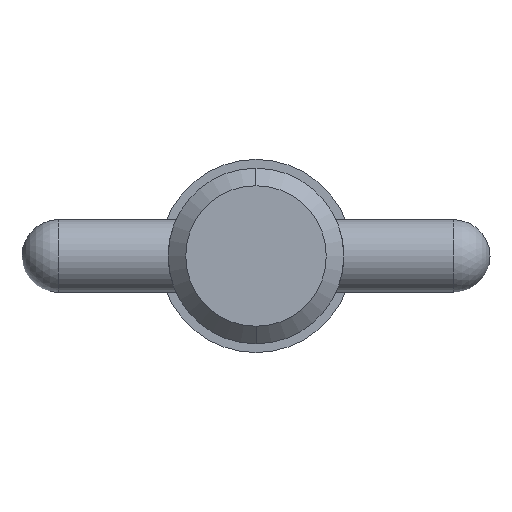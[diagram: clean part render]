
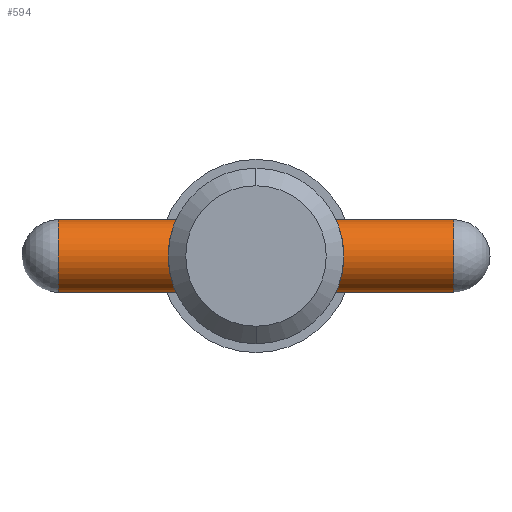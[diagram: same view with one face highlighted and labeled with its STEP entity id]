
A CAD part, left-side view. The second image highlights one B-rep face of the part: STEP entity #594.
In plain terms, the highlighted cylindrical face has radius 1.98 mm (diameter 3.96 mm), a partial arc.
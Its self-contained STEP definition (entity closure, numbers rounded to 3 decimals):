
#1 = CARTESIAN_POINT ( 'NONE',  ( 0., 10.72, 1.98 ) ) ;
#44 = VERTEX_POINT ( 'NONE', #572 ) ;
#81 = CARTESIAN_POINT ( 'NONE',  ( 0., 10.72, -1.98 ) ) ;
#110 = CARTESIAN_POINT ( 'NONE',  ( 0., 12.7, 1.98 ) ) ;
#135 = VERTEX_POINT ( 'NONE', #395 ) ;
#139 = ORIENTED_EDGE ( 'NONE', *, *, #828, .T. ) ;
#143 = VERTEX_POINT ( 'NONE', #1 ) ;
#177 = DIRECTION ( 'NONE',  ( 0., -1., 0. ) ) ;
#233 = CARTESIAN_POINT ( 'NONE',  ( 0., 10.72, 0. ) ) ;
#263 = FACE_OUTER_BOUND ( 'NONE', #547, .T. ) ;
#269 = DIRECTION ( 'NONE',  ( 0., -1., 0. ) ) ;
#301 = AXIS2_PLACEMENT_3D ( 'NONE', #429, #431, #593 ) ;
#304 = ORIENTED_EDGE ( 'NONE', *, *, #843, .T. ) ;
#306 = DIRECTION ( 'NONE',  ( 0., 0., -1. ) ) ;
#346 = LINE ( 'NONE', #110, #990 ) ;
#355 = CIRCLE ( 'NONE', #552, 1.98 ) ;
#357 = CYLINDRICAL_SURFACE ( 'NONE', #301, 1.98 ) ;
#390 = ORIENTED_EDGE ( 'NONE', *, *, #563, .T. ) ;
#395 = CARTESIAN_POINT ( 'NONE',  ( 0., -10.72, -1.98 ) ) ;
#429 = CARTESIAN_POINT ( 'NONE',  ( 0., 12.7, 0. ) ) ;
#431 = DIRECTION ( 'NONE',  ( 0., -1., 0. ) ) ;
#507 = VERTEX_POINT ( 'NONE', #81 ) ;
#514 = CARTESIAN_POINT ( 'NONE',  ( 0., 12.7, -1.98 ) ) ;
#519 = CIRCLE ( 'NONE', #875, 1.98 ) ;
#541 = EDGE_CURVE ( 'NONE', #143, #44, #346, .T. ) ;
#547 = EDGE_LOOP ( 'NONE', ( #664, #304, #390, #139 ) ) ;
#550 = DIRECTION ( 'NONE',  ( 0., 0., -1. ) ) ;
#552 = AXIS2_PLACEMENT_3D ( 'NONE', #233, #623, #550 ) ;
#563 = EDGE_CURVE ( 'NONE', #507, #135, #755, .T. ) ;
#572 = CARTESIAN_POINT ( 'NONE',  ( 0., -10.72, 1.98 ) ) ;
#593 = DIRECTION ( 'NONE',  ( 0., 0., -1. ) ) ;
#594 = ADVANCED_FACE ( 'NONE', ( #263 ), #357, .T. ) ;
#616 = VECTOR ( 'NONE', #269, 1000. ) ;
#623 = DIRECTION ( 'NONE',  ( 0., -1., 0. ) ) ;
#664 = ORIENTED_EDGE ( 'NONE', *, *, #541, .F. ) ;
#755 = LINE ( 'NONE', #514, #616 ) ;
#828 = EDGE_CURVE ( 'NONE', #135, #44, #519, .T. ) ;
#843 = EDGE_CURVE ( 'NONE', #143, #507, #355, .T. ) ;
#875 = AXIS2_PLACEMENT_3D ( 'NONE', #950, #1023, #306 ) ;
#950 = CARTESIAN_POINT ( 'NONE',  ( 0., -10.72, 0. ) ) ;
#990 = VECTOR ( 'NONE', #177, 1000. ) ;
#1023 = DIRECTION ( 'NONE',  ( 0., 1., 0. ) ) ;
